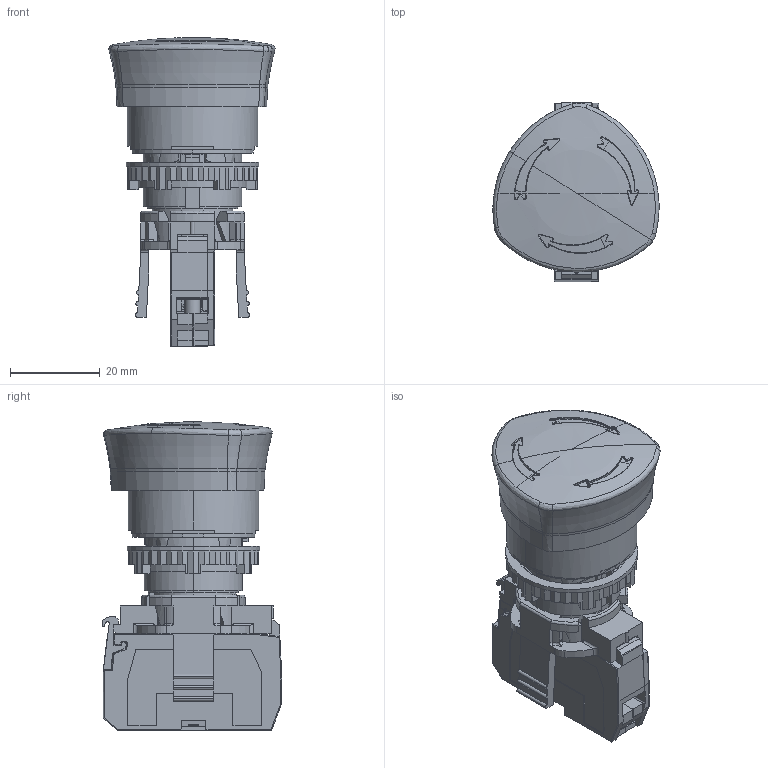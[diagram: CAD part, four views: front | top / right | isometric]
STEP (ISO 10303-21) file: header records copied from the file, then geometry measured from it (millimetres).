
FILE_DESCRIPTION(('STEP AP214'),'1');
FILE_NAME('C:/convcao/utilisateur/sortie/fabien.fantini@legrand.fr/21/L22ED01D.stp','2008-01-18T12:22:13',(' '),('Legrand SA'),'XStep 1.0','TRANSCAD',' ');
FILE_SCHEMA(('automotive_design'));
Length unit declared in the file: millimetre
Products named in the file (18): Part1|Corps principal ( 074228000 - wsp *MASTER -  )|Solide.1 (  de JELE 20955 : issu de 074228000 - wsp *MASTER -  ) ( Brep de 074228000 ); Part1|Corps de pièce.2 ( *SOL3 - wsp *MASTER -  -Non Smart-  )|Solide.2 (  de JELE 11302 : issu de *SOL3 - wsp *MASTER -  ) ( Brep de *SOL3 ); Part1|Corps de pièce.3 ( *SOL4 - wsp *MASTER -  )|Solide.3 (  de JELE 25154 : issu de *SOL4 - wsp *MASTER -  ) ( Brep de *SOL4 ); Part1|Corps de pièce.4 ( *SOL5 - wsp *MASTER -  )|Solide.4 (  de JELE 29157 : issu de *SOL5 - wsp *MASTER -  ) ( Brep de *SOL5 ); Part1|Corps de pièce.5 ( 075121000 - wsp *MASTER -  )|Solide.5 (  de JELE 40425 : issu de 075121000 - wsp *MASTER -  ) ( Brep de 075121000 ); Part1|Corps de pièce.6 ( *SOL7 - wsp *MASTER -  )|Solide.6 (  de JELE 41156 : issu de *SOL7 - wsp *MASTER -  ) ( Brep de *SOL7 ); Part1|Corps de pièce.7 ( *SOL8 - wsp *MASTER -  )|Solide.7 (  de JELE 64956 : issu de *SOL8 - wsp *MASTER -  ) ( Brep de *SOL8 ); Part1|Corps de pièce.8 ( *SOL9 - wsp *MASTER -  -Non Smart-  )|Solide.8 (  de JELE 110028 : issu de *SOL9 - wsp *MASTER -  ) ( Brep de *SOL9 ); Part1|Corps de pièce.9 ( *SOL10 - wsp *MASTER -  )|Solide.9 (  de JELE 54590 : issu de *SOL10 - wsp *MASTER -  ) ( Brep de *SOL10 ); Part1|Corps de pièce.10 ( *SOL11 - wsp *MASTER -  -Non Smart-  )|Solide.10 (  de JELE 63513 : issu de *SOL11 - wsp *MASTER -  ) ( Brep de *SOL11 ); Part1|Corps de pièce.11 ( *SOL12 - wsp *MASTER -  -Non Smart-  )|Solide.11 (  de JELE 64772 : issu de *SOL12 - wsp *MASTER -  ) ( Brep de *SOL12 ); Part1|Corps de pièce.12 ( *SOL13 - wsp *MASTER -  )|Solide.12 (  de JELE 45820 : issu de *SOL13 - wsp *MASTER -  ) ( Brep de *SOL13 ); Part1|Corps de pièce.13 ( *SOL14 - wsp *MASTER -  )|Solide.13 (  de JELE 88964 : issu de *SOL14 - wsp *MASTER -  ) ( Brep de *SOL14 ); Part1|Corps de pièce.14 ( *SOL15 - wsp *MASTER -  )|Solide.14 (  de JELE 108439 : issu de *SOL15 - wsp *MASTER -  ) ( Brep de *SOL15 ); Part1|Corps de pièce.15 ( *SOL16 - wsp *MASTER -  -Non Smart-  )|Solide.15 (  de JELE 109844 : issu de *SOL16 - wsp *MASTER -  ) ( Brep de *SOL16 ); Part1|Corps de pièce.16 ( *SOL17 - wsp *MASTER -  -Non Smart-  )|Solide.16 (  de JELE 110465 : issu de *SOL17 - wsp *MASTER -  ) ( Brep de *SOL17 ); Part1|Corps de pièce.17 ( *SOL18 - wsp *MASTER -  -Non Smart-  )|Assemble.1
Bounding box: 36.99 x 39.95 x 68.75 mm (x, y, z)
Volume: 22878.1 mm3; surface area: 33665.8 mm2
Topology: 18 solids, 18 shells, 2986 faces, 8429 edges, 5483 vertices
Faces by surface type: plane 2016, cylinder 495, bspline 286, cone 130, torus 30, sphere 29
Entity records: 132179 total; most frequent: CARTESIAN_POINT 32813, ORIENTED_EDGE 16818, DIRECTION 13533, EDGE_CURVE 8409, VERTEX_POINT 5483, LINE 5253, VECTOR 5253, AXIS2_PLACEMENT_3D 4140
